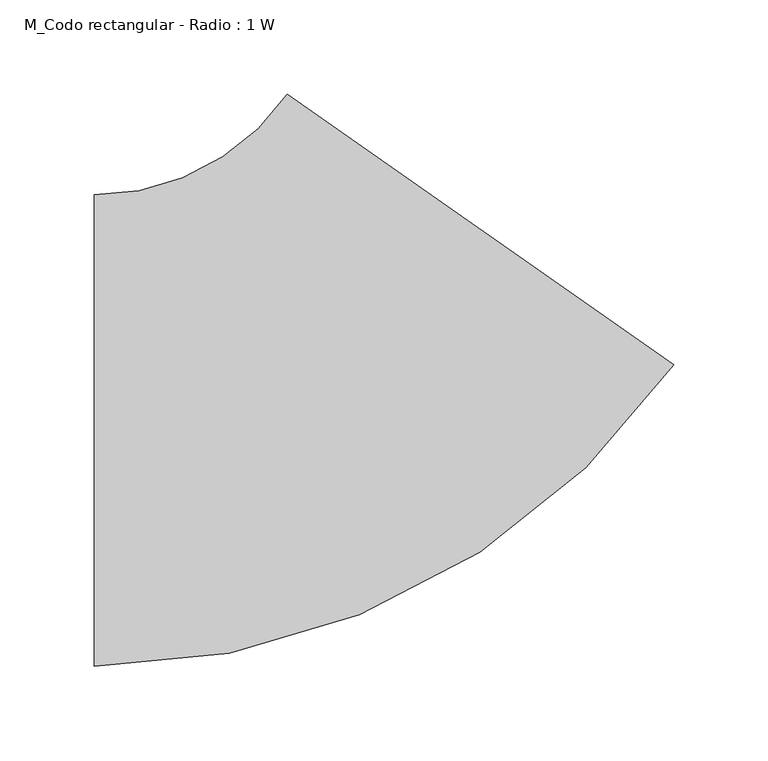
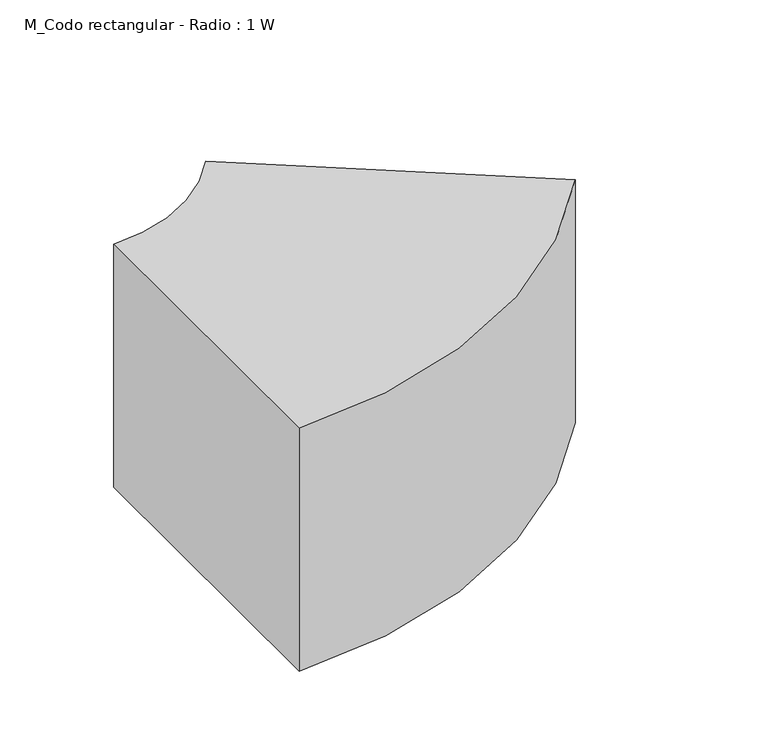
"""IFC4 building model written with IfcOpenShell, lengths in millimetres: duct fitting geometry, M_Codo rectangular - Radio : 1 W."""

from ifc_helpers import new_model, si_unit, point, frame, frame_2d, origin, place, context, project, spatial, polyline, circle_curve, trimmed, segment, composite_curve, outline, extrude, source, transform, mapped, element, save


def m_codo_rectangular_radio_1_w_ab7fd5e4(model_context):
    return source(origin(), model_context, "Body", "SweptSolid", [
        extrude(outline(composite_curve([segment(trimmed(circle_curve(frame_2d((-130.1417626, 250.0)), 375.0), [point((177.040254, 34.9088364))], [point((-130.1417626, -125.0))], False, "CARTESIAN"), True, "CONTINUOUS"), segment(polyline([(-130.1417626, -125.0), (-130.1417626, 125.0)]), True, "CONTINUOUS"), segment(trimmed(circle_curve(frame_2d((-130.1417626, 250.0)), 125.0), [point((-130.1417626, 125.0))], [point((-27.7477571, 178.3029455))], True, "CARTESIAN"), True, "CONTINUOUS"), segment(polyline([(-27.7477571, 178.3029455), (177.040254, 34.9088364)]), True, "CONTINUOUS")], self_intersect=False)), frame((0.0, 0.0, -100.0), z_axis=(0.0, 0.0, 1.0), x_axis=(1.0, 0.0, 0.0)), (0.0, 0.0, 1.0), 200.0),
    ])


if __name__ == "__main__":
    model = new_model("IFC4")
    model_context = context("Model", 3, world=origin())
    ifc_project = project(units=[si_unit("LENGTHUNIT", "METRE", prefix="MILLI")], contexts=[model_context])
    site = spatial("IfcSite", under=ifc_project)
    building = spatial("IfcBuilding", under=site)
    placement = place(None, origin())
    m_codo_rectangular_radio_1_w_shape = m_codo_rectangular_radio_1_w_ab7fd5e4(model_context)
    element("IfcDuctFitting", 1, ObjectType="M_Codo rectangular - Radio : 1 W", at=placement, inside=building, context=model_context, shape_type="MappedRepresentation", body=[
        mapped(m_codo_rectangular_radio_1_w_shape, transform((0.0, 0.0, 0.0), x_axis=(1.0, 0.0, 0.0), y_axis=(0.0, 1.0, 0.0), z_axis=(0.0, 0.0, 1.0))),
    ])
    save(model, "model.ifc")
